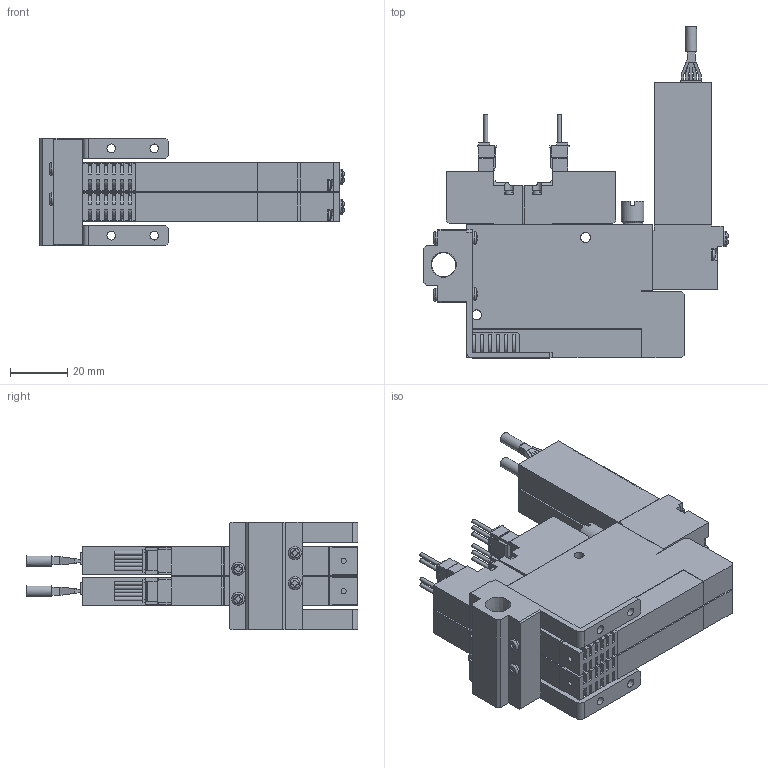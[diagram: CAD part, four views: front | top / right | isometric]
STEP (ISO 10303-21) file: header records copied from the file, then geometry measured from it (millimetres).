
FILE_DESCRIPTION(('STEP AP203'),'1');
FILE_NAME('5WS202_3D.stp','2024-09-04T09:29:27',(' '),(' '),'Spatial InterOp 3D',' ',' ');
FILE_SCHEMA(('CONFIG_CONTROL_DESIGN'));
Length unit declared in the file: millimetre
Products named in the file (5): BSC1M※※V9※5WS202; Solenoid valve W; Pressure Sensor V9; Unit-S; BaseMS20R
Assembly tree (7 placements, depth 2):
  BSC1M※※V9※5WS202
    Solenoid valve W  x2
    Pressure Sensor V9  x2
    Unit-S  x2
    BaseMS20R
Bounding box: 106.35 x 115.8 x 37.5 mm (x, y, z)
Volume: 123160.7 mm3; surface area: 49900.4 mm2
Topology: 7 solids, 7 shells, 1115 faces, 3055 edges, 2018 vertices
Faces by surface type: plane 822, cylinder 253, sphere 14, torus 14, cone 12
Full cylindrical faces by diameter (mm): 1.4 x10, 1.8 x2, 2.5 x4, 3 x12, 3.5 x16, 3.8 x2, 4 x2, 4.134 x4, 4.5 x8, 5.5 x4, 7 x2, 7.7 x2, 8 x2, 8.422 x1
Entity records: 20394 total; most frequent: CARTESIAN_POINT 4280, ORIENTED_EDGE 3260, DIRECTION 3188, EDGE_CURVE 1630, LINE 1220, VECTOR 1220, VERTEX_POINT 1116, AXIS2_PLACEMENT_3D 984
